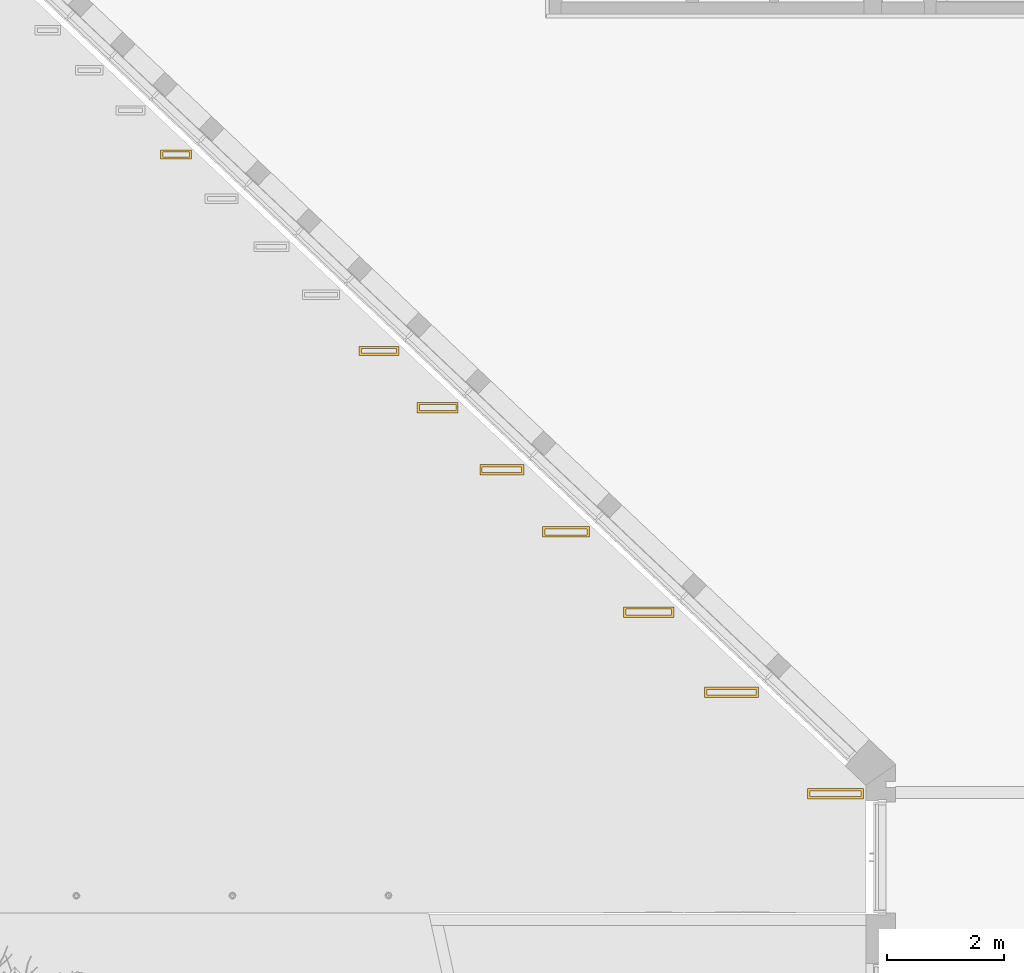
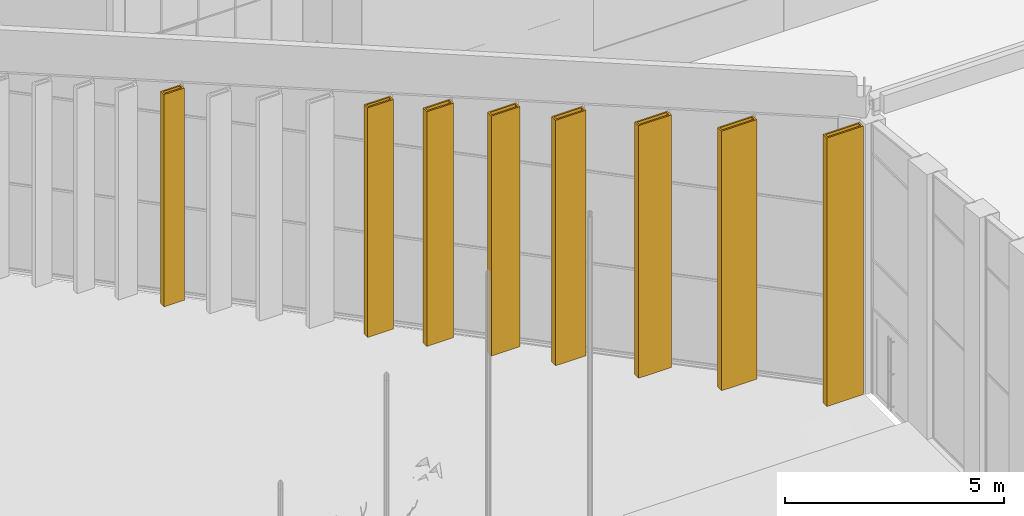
# One storey, part 175 of 246: 8 coverings.
"""IFC2X3 building model written with IfcOpenShell, lengths in millimetres."""

from ifc_helpers import new_model, entity, si_unit, converted_unit, derived_unit, money_unit, direction, frame, origin_with_axes, place, context, subcontext, project, spatial, faceted_brep, material, material_list, type_object, element, save


model = new_model("IFC2X3")

# Units and contexts
model_context = context("Model", 3, precision=0.01, world=origin_with_axes(), true_north=direction((0.0, 1.0)))
body_context = subcontext(model_context, "Body", "Model", "MODEL_VIEW")
ifc_project = project(units=[si_unit("LENGTHUNIT", "METRE", prefix="MILLI"), si_unit("AREAUNIT", "SQUARE_METRE"), si_unit("VOLUMEUNIT", "CUBIC_METRE"), converted_unit("PLANEANGLEUNIT", "DEGREE", entity("IfcPlaneAngleMeasure", 0.0174532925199), si_unit("PLANEANGLEUNIT", "RADIAN"), dimensions=[0, 0, 0, 0, 0, 0, 0]), si_unit("SOLIDANGLEUNIT", "STERADIAN"), money_unit("EUR"), converted_unit("TIMEUNIT", "Year", entity("IfcTimeMeasure", 31556926.0), si_unit("TIMEUNIT", "SECOND"), dimensions=[0, 0, 1, 0, 0, 0, 0]), si_unit("MASSUNIT", "GRAM", prefix="KILO"), si_unit("THERMODYNAMICTEMPERATUREUNIT", "DEGREE_CELSIUS"), si_unit("LUMINOUSINTENSITYUNIT", "LUMEN"), si_unit("ENERGYUNIT", "JOULE", prefix="MEGA"), derived_unit("THERMALCONDUCTANCEUNIT", [(si_unit("POWERUNIT", "WATT"), 1), (si_unit("LENGTHUNIT", "METRE"), -1), (si_unit("THERMODYNAMICTEMPERATUREUNIT", "KELVIN"), -1)]), derived_unit("SPECIFICHEATCAPACITYUNIT", [(si_unit("ENERGYUNIT", "JOULE"), 1), (si_unit("MASSUNIT", "GRAM", prefix="KILO"), -1), (si_unit("THERMODYNAMICTEMPERATUREUNIT", "KELVIN"), -1)]), derived_unit("MASSDENSITYUNIT", [(si_unit("MASSUNIT", "GRAM", prefix="KILO"), 1), (si_unit("VOLUMEUNIT", "CUBIC_METRE"), -1)])], contexts=[model_context])

# Site, building, storey
site_placement = place(None, origin_with_axes())
site = spatial("IfcSite", under=ifc_project, at=site_placement, Name="L.Koidula tn 11b", CompositionType="ELEMENT")
building_placement = place(site_placement, origin_with_axes())
building = spatial("IfcBuilding", under=site, at=building_placement, Name="Rakvere Riigigümnaasium", CompositionType="ELEMENT")
storey_placement = place(building_placement, origin_with_axes())
storey = spatial("IfcBuildingStorey", under=building, at=storey_placement, Name="1.korrus 0,00", CompositionType="ELEMENT", Elevation=0.0)

# Coverings
ifc_material_1 = material(Name="Puit-fassaad")
ifc_material_2 = material(Name="Teras - Konstruktsioon")
ifc_material_list = material_list([ifc_material_1, ifc_material_1, ifc_material_1, ifc_material_1, ifc_material_2])
covering_type_1 = type_object("IfcCoveringType", Name="AR-Lamell-laudisega 924 x 180", PredefinedType="NOTDEFINED")
covering_1_placement = place(storey_placement, frame((32685.2282351, 45684.8794872, 0.0), z_axis=(0.0, 0.0, 1.0), x_axis=(1.0, 0.0, 0.0)))
element("IfcCovering", 1, at=covering_1_placement, inside=storey, type_object=covering_type_1, material=ifc_material_list, Name="L-C5", PredefinedType="NOTDEFINED", context=body_context, shape_type="Brep", body=[
    faceted_brep([(-442.000004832, -70.019175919, 0.0), (-442.000004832, -90.0005331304, 0.0), (-442.000004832, -90.0005331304, 7220.0), (-442.000004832, -70.019175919, 7220.0), (412.000013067, -70.0191624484, 0.0), (442.000000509, -70.0005325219, 0.0), (462.000001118, -70.0005325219, 0.0), (462.000001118, -90.0005331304, 0.0), (462.000001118, -90.0005331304, 7220.0), (462.000001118, -70.0005325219, 7220.0), (442.000000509, -70.0005325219, 7220.0), (412.000013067, -70.0191624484, 7220.0)], [[[0, 1, 2, 3]], [[0, 4, 5, 6, 7, 1]], [[1, 7, 8, 2]], [[3, 2, 8, 9, 10, 11]], [[4, 0, 3, 11]], [[5, 4, 11, 10]], [[6, 5, 10, 9]], [[7, 6, 9, 8]]]),
    faceted_brep([(441.99999325, 70.0005351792, 0.0), (442.000007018, -70.0005387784, 0.0), (442.000007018, -70.0005387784, 7220.0), (441.99999325, 70.0005351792, 7220.0), (442.000007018, 90.0005292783, 0.0), (462.000001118, 90.0005292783, 0.0), (462.000001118, -70.0005387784, 0.0), (462.000001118, -70.0005387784, 7220.0), (462.000001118, 90.0005292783, 7220.0), (442.000007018, 90.0005292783, 7220.0)], [[[0, 1, 2, 3]], [[0, 4, 5, 6, 1]], [[1, 6, 7, 2]], [[3, 2, 7, 8, 9]], [[4, 0, 3, 9]], [[5, 4, 9, 8]], [[6, 5, 8, 7]]]),
    faceted_brep([(-461.999998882, 90.0005348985, 0.0), (-461.999998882, 70.0005344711, 0.0), (-461.999998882, 70.0005344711, 7220.0), (-461.999998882, 90.0005348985, 7220.0), (441.999998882, 90.0005348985, 0.0), (441.999998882, 70.0005344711, 0.0), (441.999998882, 70.0005344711, 7220.0), (441.999998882, 90.0005348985, 7220.0)], [[[0, 1, 2, 3]], [[0, 4, 5, 1]], [[1, 5, 6, 2]], [[3, 2, 6, 7]], [[4, 0, 3, 7]], [[5, 4, 7, 6]]]),
    faceted_brep([(-461.999998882, -90.0005331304, 0.0), (-441.999998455, -90.0005331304, 0.0), (-441.999998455, -90.0005331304, 7220.0), (-461.999998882, -90.0005331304, 7220.0), (-461.999998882, 70.0005344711, 0.0), (-442.281252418, 70.0005344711, 0.0), (-442.281252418, -70.0191760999, 0.0), (-441.999998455, -70.0191760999, 0.0), (-441.999998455, -70.0191760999, 7220.0), (-442.281252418, -70.0191760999, 7220.0), (-442.281252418, 70.0005344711, 7220.0), (-461.999998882, 70.0005344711, 7220.0)], [[[0, 1, 2, 3]], [[0, 4, 5, 6, 7, 1]], [[1, 7, 8, 2]], [[3, 2, 8, 9, 10, 11]], [[4, 0, 3, 11]], [[5, 4, 11, 10]], [[6, 5, 10, 9]], [[7, 6, 9, 8]]]),
    faceted_brep([(-442.281249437, -70.0191745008, 0.0), (412.000013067, -70.0191624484, 0.0), (412.000013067, -70.0191624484, 7220.0), (-442.281249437, -70.0191745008, 7220.0), (-442.281249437, 70.0005331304, 0.0), (441.999998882, 70.0005331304, 0.0), (441.999998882, -70.0191745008, 0.0), (-422.326915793, 50.1901014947, 0.0), (-422.326915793, -49.5295108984, 0.0), (421.615300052, -49.5295108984, 0.0), (421.615300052, 50.1901014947, 0.0), (441.999998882, -70.0191745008, 7220.0), (441.999998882, 70.0005331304, 7220.0), (-442.281249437, 70.0005331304, 7220.0), (-422.326915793, 50.1901014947, 7220.0), (421.615300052, 50.1901014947, 7220.0), (421.615300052, -49.5295108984, 7220.0), (-422.326915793, -49.5295108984, 7220.0)], [[[0, 1, 2, 3]], [[0, 4, 5, 6, 1], [7, 8, 9, 10]], [[1, 6, 11, 2]], [[3, 2, 11, 12, 13], [14, 15, 16, 17]], [[4, 0, 3, 13]], [[5, 4, 13, 12]], [[6, 5, 12, 11]], [[8, 7, 14, 17]], [[9, 8, 17, 16]], [[10, 9, 16, 15]], [[7, 10, 15, 14]]]),
])
covering_type_2 = type_object("IfcCoveringType", Name="AR-Lamell-laudisega 863 x 180", PredefinedType="NOTDEFINED")
covering_2_placement = place(storey_placement, frame((31263.8077755, 47060.35338, 0.0), z_axis=(0.0, 0.0, 1.0), x_axis=(1.0, 0.0, 0.0)))
element("IfcCovering", 2, at=covering_2_placement, inside=storey, type_object=covering_type_2, material=ifc_material_list, Name="L-C4", PredefinedType="NOTDEFINED", context=body_context, shape_type="Brep", body=[
    faceted_brep([(-411.500005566, -70.0190051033, 0.0), (-411.500005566, -90.0003593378, 0.0), (-411.500005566, -90.0003593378, 7024.0), (-411.500005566, -70.0190051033, 7024.0), (381.499999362, -70.0190051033, 0.0), (411.499993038, -70.0003635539, 0.0), (431.500001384, -70.0003635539, 0.0), (431.500001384, -90.0003593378, 0.0), (431.500001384, -90.0003593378, 7024.0), (431.500001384, -70.0003635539, 7024.0), (411.499993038, -70.0003635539, 7024.0), (381.499999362, -70.0190051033, 7024.0)], [[[0, 1, 2, 3]], [[0, 4, 5, 6, 7, 1]], [[1, 7, 8, 2]], [[3, 2, 8, 9, 10, 11]], [[4, 0, 3, 11]], [[5, 4, 11, 10]], [[6, 5, 10, 9]], [[7, 6, 9, 8]]]),
    faceted_brep([(411.499994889, -70.0003655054, 0.0), (431.500001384, -70.0003655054, 0.0), (431.500001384, -70.0003655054, 7024.0), (411.499994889, -70.0003655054, 7024.0), (411.499994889, 70.0003615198, 0.0), (411.499994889, 90.0003551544, 0.0), (431.500001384, 90.0003551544, 0.0), (431.500001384, 90.0003551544, 7024.0), (411.499994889, 90.0003551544, 7024.0), (411.499994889, 70.0003615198, 7024.0)], [[[0, 1, 2, 3]], [[0, 4, 5, 6, 1]], [[1, 6, 7, 2]], [[3, 2, 7, 8, 9]], [[4, 0, 3, 9]], [[5, 4, 9, 8]], [[6, 5, 8, 7]]]),
    faceted_brep([(-431.499999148, 90.0003545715, 0.0), (-431.499999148, 70.0003589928, 0.0), (-431.499999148, 70.0003589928, 7024.0), (-431.499999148, 90.0003545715, 7024.0), (411.499999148, 90.0003545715, 0.0), (411.499999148, 70.0003589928, 0.0), (411.499999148, 70.0003589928, 7024.0), (411.499999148, 90.0003545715, 7024.0)], [[[0, 1, 2, 3]], [[0, 4, 5, 1]], [[1, 5, 6, 2]], [[3, 2, 6, 7]], [[4, 0, 3, 7]], [[5, 4, 7, 6]]]),
    faceted_brep([(-431.499999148, -90.0003593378, 0.0), (-411.50000357, -90.0003593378, 0.0), (-411.50000357, -90.0003593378, 7024.0), (-431.499999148, -90.0003593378, 7024.0), (-431.499999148, 70.0003589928, 0.0), (-411.781247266, 70.0003589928, 0.0), (-411.781247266, -70.0190053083, 0.0), (-411.50000357, -70.0190053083, 0.0), (-411.50000357, -70.0190053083, 7024.0), (-411.781247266, -70.0190053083, 7024.0), (-411.781247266, 70.0003589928, 7024.0), (-431.499999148, 70.0003589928, 7024.0)], [[[0, 1, 2, 3]], [[0, 4, 5, 6, 7, 1]], [[1, 7, 8, 2]], [[3, 2, 8, 9, 10, 11]], [[4, 0, 3, 11]], [[5, 4, 11, 10]], [[6, 5, 10, 9]], [[7, 6, 9, 8]]]),
    faceted_brep([(-411.781249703, -70.0190007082, 0.0), (381.499999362, -70.0190051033, 0.0), (381.499999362, -70.0190051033, 7024.0), (-411.781249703, -70.0190007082, 7024.0), (-411.781249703, 70.0003593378, 0.0), (411.499999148, 70.0003593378, 0.0), (411.499999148, -70.0190007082, 0.0), (-391.826916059, 50.1899277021, 0.0), (-391.826916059, -49.5293371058, 0.0), (391.115300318, -49.5293371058, 0.0), (391.115300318, 50.1899277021, 0.0), (411.499999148, -70.0190007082, 7024.0), (411.499999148, 70.0003593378, 7024.0), (-411.781249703, 70.0003593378, 7024.0), (-391.826916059, 50.1899277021, 7024.0), (391.115300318, 50.1899277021, 7024.0), (391.115300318, -49.5293371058, 7024.0), (-391.826916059, -49.5293371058, 7024.0)], [[[0, 1, 2, 3]], [[0, 4, 5, 6, 1], [7, 8, 9, 10]], [[1, 6, 11, 2]], [[3, 2, 11, 12, 13], [14, 15, 16, 17]], [[4, 0, 3, 13]], [[5, 4, 13, 12]], [[6, 5, 12, 11]], [[8, 7, 14, 17]], [[9, 8, 17, 16]], [[10, 9, 16, 15]], [[7, 10, 15, 14]]]),
])
covering_type_3 = type_object("IfcCoveringType", Name="AR-Lamell-laudisega 801 x 180", PredefinedType="NOTDEFINED")
covering_3_placement = place(storey_placement, frame((29842.9187659, 48435.7967765, 0.0), z_axis=(0.0, 0.0, 1.0), x_axis=(1.0, 0.0, 0.0)))
element("IfcCovering", 3, at=covering_3_placement, inside=storey, type_object=covering_type_3, material=ifc_material_list, Name="L-C3", PredefinedType="NOTDEFINED", context=body_context, shape_type="Brep", body=[
    faceted_brep([(-380.500004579, -70.0190072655, 0.0), (-380.500004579, -90.0003611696, 0.0), (-380.500004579, -90.0003611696, 6828.0), (-380.500004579, -70.0190072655, 6828.0), (350.500012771, -70.0189956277, 0.0), (380.499991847, -70.000363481, 0.0), (400.500001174, -70.000363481, 0.0), (400.500001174, -90.0003611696, 0.0), (400.500001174, -90.0003611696, 6828.0), (400.500001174, -70.000363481, 6828.0), (380.499991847, -70.000363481, 6828.0), (350.500012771, -70.0189956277, 6828.0)], [[[0, 1, 2, 3]], [[0, 4, 5, 6, 7, 1]], [[1, 7, 8, 2]], [[3, 2, 8, 9, 10, 11]], [[4, 0, 3, 11]], [[5, 4, 11, 10]], [[6, 5, 10, 9]], [[7, 6, 9, 8]]]),
    faceted_brep([(380.499994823, -70.0003636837, 0.0), (400.500001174, -70.0003636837, 0.0), (400.500001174, -70.0003636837, 6828.0), (380.499994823, -70.0003636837, 6828.0), (380.499994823, 70.0003491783, 0.0), (380.499994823, 90.0003674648, 0.0), (400.500001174, 90.0003674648, 0.0), (400.500001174, 90.0003674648, 6828.0), (380.499994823, 90.0003674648, 6828.0), (380.499994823, 70.0003491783, 6828.0)], [[[0, 1, 2, 3]], [[0, 4, 5, 6, 1]], [[1, 6, 7, 2]], [[3, 2, 7, 8, 9]], [[4, 0, 3, 9]], [[5, 4, 9, 8]], [[6, 5, 8, 7]]]),
    faceted_brep([(-400.499998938, 90.0003493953, 0.0), (-400.499998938, 70.0003635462, 0.0), (-400.499998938, 70.0003635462, 6828.0), (-400.499998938, 90.0003493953, 6828.0), (380.499998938, 90.0003493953, 0.0), (380.499998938, 70.0003519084, 0.0), (380.499998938, 70.0003519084, 6828.0), (380.499998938, 90.0003493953, 6828.0)], [[[0, 1, 2, 3]], [[0, 4, 5, 1]], [[1, 5, 6, 2]], [[3, 2, 6, 7]], [[4, 0, 3, 7]], [[5, 4, 7, 6]]]),
    faceted_brep([(-400.499998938, -90.0003611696, 0.0), (-380.500001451, -90.0003611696, 0.0), (-380.500001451, -90.0003611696, 6828.0), (-400.499998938, -90.0003611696, 6828.0), (-400.499998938, 70.0003635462, 0.0), (-380.781252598, 70.0003635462, 0.0), (-380.781252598, -70.019007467, 0.0), (-380.500001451, -70.019007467, 0.0), (-380.500001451, -70.019007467, 6828.0), (-380.781252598, -70.019007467, 6828.0), (-380.781252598, 70.0003635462, 6828.0), (-400.499998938, 70.0003635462, 6828.0)], [[[0, 1, 2, 3]], [[0, 4, 5, 6, 7, 1]], [[1, 7, 8, 2]], [[3, 2, 8, 9, 10, 11]], [[4, 0, 3, 11]], [[5, 4, 11, 10]], [[6, 5, 10, 9]], [[7, 6, 9, 8]]]),
    faceted_brep([(-380.781249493, -70.01900254, 0.0), (350.500012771, -70.0189956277, 0.0), (350.500012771, -70.0189956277, 6828.0), (-380.781249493, -70.01900254, 6828.0), (-380.781249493, 70.0003611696, 0.0), (380.499998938, 70.0003611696, 0.0), (380.499998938, -70.01900254, 0.0), (-360.826915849, 50.1899295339, 0.0), (-360.826915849, -49.5293389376, 0.0), (360.115300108, -49.5293389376, 0.0), (360.115300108, 50.1899295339, 0.0), (380.499998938, -70.01900254, 6828.0), (380.499998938, 70.0003611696, 6828.0), (-380.781249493, 70.0003611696, 6828.0), (-360.826915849, 50.1899295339, 6828.0), (360.115300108, 50.1899295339, 6828.0), (360.115300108, -49.5293389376, 6828.0), (-360.826915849, -49.5293389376, 6828.0)], [[[0, 1, 2, 3]], [[0, 4, 5, 6, 1], [7, 8, 9, 10]], [[1, 6, 11, 2]], [[3, 2, 11, 12, 13], [14, 15, 16, 17]], [[4, 0, 3, 13]], [[5, 4, 13, 12]], [[6, 5, 12, 11]], [[8, 7, 14, 17]], [[9, 8, 17, 16]], [[10, 9, 16, 15]], [[7, 10, 15, 14]]]),
])
covering_type_4 = type_object("IfcCoveringType", Name="AR-Lamell-laudisega 753 x 180", PredefinedType="NOTDEFINED")
covering_4_placement = place(storey_placement, frame((28741.6804099, 49501.7886347, 0.0), z_axis=(0.0, 0.0, 1.0), x_axis=(1.0, 0.0, 0.0)))
element("IfcCovering", 4, at=covering_4_placement, inside=storey, type_object=covering_type_4, material=ifc_material_list, Name="L-C2", PredefinedType="NOTDEFINED", context=body_context, shape_type="Brep", body=[
    faceted_brep([(-356.500001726, -70.0190001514, 0.0), (-356.500001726, -90.0003630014, 0.0), (-356.500001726, -90.0003630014, 6676.0), (-356.500001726, -70.0190001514, 6676.0), (326.499998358, -70.0190001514, 0.0), (356.500004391, -70.0003662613, 0.0), (376.500001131, -70.0003662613, 0.0), (376.500001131, -90.0003630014, 0.0), (376.500001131, -90.0003630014, 6676.0), (376.500001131, -70.0003662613, 6676.0), (356.500004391, -70.0003662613, 6676.0), (326.499998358, -70.0190001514, 6676.0)], [[[0, 1, 2, 3]], [[0, 4, 5, 6, 7, 1]], [[1, 7, 8, 2]], [[3, 2, 8, 9, 10, 11]], [[4, 0, 3, 11]], [[5, 4, 11, 10]], [[6, 5, 10, 9]], [[7, 6, 9, 8]]]),
    faceted_brep([(356.500003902, -70.000363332, 0.0), (376.500001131, -70.000363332, 0.0), (376.500001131, -70.000363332, 6676.0), (356.500003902, -70.000363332, 6676.0), (356.500003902, 70.0003690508, 0.0), (356.500003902, 90.0003550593, 0.0), (376.500001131, 90.0003550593, 0.0), (376.500001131, 90.0003550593, 6676.0), (356.500003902, 90.0003550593, 6676.0), (356.500003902, 70.0003690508, 6676.0)], [[[0, 1, 2, 3]], [[0, 4, 5, 6, 1]], [[1, 6, 7, 2]], [[3, 2, 7, 8, 9]], [[4, 0, 3, 9]], [[5, 4, 9, 8]], [[6, 5, 8, 7]]]),
    faceted_brep([(-376.499998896, 90.0003709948, 0.0), (-376.499998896, 70.0003634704, 0.0), (-376.499998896, 70.0003634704, 6676.0), (-376.499998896, 90.0003709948, 6676.0), (356.499998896, 90.0003709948, 0.0), (356.499998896, 70.0003634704, 0.0), (356.499998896, 70.0003634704, 6676.0), (356.499998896, 90.0003709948, 6676.0)], [[[0, 1, 2, 3]], [[0, 4, 5, 1]], [[1, 5, 6, 2]], [[3, 2, 6, 7]], [[4, 0, 3, 7]], [[5, 4, 7, 6]]]),
    faceted_brep([(-376.499998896, -90.0003630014, 0.0), (-356.500002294, -90.0003630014, 0.0), (-356.500002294, -90.0003630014, 6676.0), (-376.499998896, -90.0003630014, 6676.0), (-376.499998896, 70.0003634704, 0.0), (-356.781247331, 70.0003634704, 0.0), (-356.781247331, -70.0190002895, 0.0), (-356.500002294, -70.0190002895, 0.0), (-356.500002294, -70.0190002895, 6676.0), (-356.781247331, -70.0190002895, 6676.0), (-356.781247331, 70.0003634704, 6676.0), (-376.499998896, 70.0003634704, 6676.0)], [[[0, 1, 2, 3]], [[0, 4, 5, 6, 7, 1]], [[1, 7, 8, 2]], [[3, 2, 8, 9, 10, 11]], [[4, 0, 3, 11]], [[5, 4, 11, 10]], [[6, 5, 10, 9]], [[7, 6, 9, 8]]]),
    faceted_brep([(-356.781249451, -70.0190043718, 0.0), (326.499998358, -70.0190001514, 0.0), (326.499998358, -70.0190001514, 6676.0), (-356.781249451, -70.0190043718, 6676.0), (-356.781249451, 70.0003630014, 0.0), (356.499998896, 70.0003630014, 0.0), (356.499998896, -70.0190043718, 0.0), (-336.826915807, 50.1899313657, 0.0), (-336.826915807, -49.5293407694, 0.0), (336.115300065, -49.5293407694, 0.0), (336.115300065, 50.1899313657, 0.0), (356.499998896, -70.0190043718, 6676.0), (356.499998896, 70.0003630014, 6676.0), (-356.781249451, 70.0003630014, 6676.0), (-336.826915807, 50.1899313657, 6676.0), (336.115300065, 50.1899313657, 6676.0), (336.115300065, -49.5293407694, 6676.0), (-336.826915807, -49.5293407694, 6676.0)], [[[0, 1, 2, 3]], [[0, 4, 5, 6, 1], [7, 8, 9, 10]], [[1, 6, 11, 2]], [[3, 2, 11, 12, 13], [14, 15, 16, 17]], [[4, 0, 3, 13]], [[5, 4, 13, 12]], [[6, 5, 12, 11]], [[8, 7, 14, 17]], [[9, 8, 17, 16]], [[10, 9, 16, 15]], [[7, 10, 15, 14]]]),
])
covering_type_5 = type_object("IfcCoveringType", Name="AR-Lamell-laudisega 706 x 180", PredefinedType="NOTDEFINED")
covering_5_placement = place(storey_placement, frame((27639.9485177, 50567.7743693, 0.0), z_axis=(0.0, 0.0, 1.0), x_axis=(1.0, 0.0, 0.0)))
element("IfcCovering", 5, at=covering_5_placement, inside=storey, type_object=covering_type_5, material=ifc_material_list, Name="L-C1", PredefinedType="NOTDEFINED", context=body_context, shape_type="Brep", body=[
    faceted_brep([(-333.000000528, -70.0190078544, 0.0), (-333.000000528, -90.0003648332, 0.0), (-333.000000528, -90.0003648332, 6525.0), (-333.000000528, -70.0190078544, 6525.0), (303.000010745, -70.0190078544, 0.0), (332.999998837, -70.00036255, 0.0), (353.00000112, -70.00036255, 0.0), (353.00000112, -90.0003648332, 0.0), (353.00000112, -90.0003648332, 6525.0), (353.00000112, -70.00036255, 6525.0), (332.999998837, -70.00036255, 6525.0), (303.000010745, -70.0190078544, 6525.0)], [[[0, 1, 2, 3]], [[0, 4, 5, 6, 7, 1]], [[1, 7, 8, 2]], [[3, 2, 8, 9, 10, 11]], [[4, 0, 3, 11]], [[5, 4, 11, 10]], [[6, 5, 10, 9]], [[7, 6, 9, 8]]]),
    faceted_brep([(333.0000027, -70.0003634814, 0.0), (353.00000112, -70.0003634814, 0.0), (353.00000112, -70.0003634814, 6525.0), (333.0000027, -70.0003634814, 6525.0), (333.0000027, 70.0003723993, 0.0), (333.0000027, 90.0003708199, 0.0), (353.00000112, 90.0003708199, 0.0), (353.00000112, 90.0003708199, 6525.0), (333.0000027, 90.0003708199, 6525.0), (333.0000027, 70.0003723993, 6525.0)], [[[0, 1, 2, 3]], [[0, 4, 5, 6, 1]], [[1, 6, 7, 2]], [[3, 2, 7, 8, 9]], [[4, 0, 3, 9]], [[5, 4, 9, 8]], [[6, 5, 8, 7]]]),
    faceted_brep([(-352.999998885, 90.0003600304, 0.0), (-352.999998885, 70.0003680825, 0.0), (-352.999998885, 70.0003680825, 6525.0), (-352.999998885, 90.0003600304, 6525.0), (332.999998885, 90.0003600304, 0.0), (332.999998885, 70.0003680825, 0.0), (332.999998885, 70.0003680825, 6525.0), (332.999998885, 90.0003600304, 6525.0)], [[[0, 1, 2, 3]], [[0, 4, 5, 1]], [[1, 5, 6, 2]], [[3, 2, 6, 7]], [[4, 0, 3, 7]], [[5, 4, 7, 6]]]),
    faceted_brep([(-352.999998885, -90.0003648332, 0.0), (-332.999996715, -90.0003648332, 0.0), (-332.999996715, -90.0003648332, 6525.0), (-352.999998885, -90.0003648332, 6525.0), (-352.999998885, 70.0003680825, 0.0), (-333.281250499, 70.0003680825, 0.0), (-333.281250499, -70.0190079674, 0.0), (-332.999996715, -70.0190079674, 0.0), (-332.999996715, -70.0190079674, 6525.0), (-333.281250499, -70.0190079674, 6525.0), (-333.281250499, 70.0003680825, 6525.0), (-352.999998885, 70.0003680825, 6525.0)], [[[0, 1, 2, 3]], [[0, 4, 5, 6, 7, 1]], [[1, 7, 8, 2]], [[3, 2, 8, 9, 10, 11]], [[4, 0, 3, 11]], [[5, 4, 11, 10]], [[6, 5, 10, 9]], [[7, 6, 9, 8]]]),
    faceted_brep([(-333.28124944, -70.0190062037, 0.0), (303.000010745, -70.0190078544, 0.0), (303.000010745, -70.0190078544, 6525.0), (-333.28124944, -70.0190062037, 6525.0), (-333.28124944, 70.0003648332, 0.0), (332.999998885, 70.0003648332, 0.0), (332.999998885, -70.0190062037, 0.0), (-313.326915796, 50.1899331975, 0.0), (-313.326915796, -49.5293426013, 0.0), (312.615300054, -49.5293426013, 0.0), (312.615300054, 50.1899331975, 0.0), (332.999998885, -70.0190062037, 6525.0), (332.999998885, 70.0003648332, 6525.0), (-333.28124944, 70.0003648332, 6525.0), (-313.326915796, 50.1899331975, 6525.0), (312.615300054, 50.1899331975, 6525.0), (312.615300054, -49.5293426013, 6525.0), (-313.326915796, -49.5293426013, 6525.0)], [[[0, 1, 2, 3]], [[0, 4, 5, 6, 1], [7, 8, 9, 10]], [[1, 6, 11, 2]], [[3, 2, 11, 12, 13], [14, 15, 16, 17]], [[4, 0, 3, 13]], [[5, 4, 13, 12]], [[6, 5, 12, 11]], [[8, 7, 14, 17]], [[9, 8, 17, 16]], [[10, 9, 16, 15]], [[7, 10, 15, 14]]]),
])
covering_type_6 = type_object("IfcCoveringType", Name="AR-Lamell-laudisega 683 x 160", PredefinedType="NOTDEFINED")
covering_6_placement = place(storey_placement, frame((26635.1041961, 51540.6059695, 0.0), z_axis=(0.0, 0.0, 1.0), x_axis=(1.0, 0.0, 0.0)))
element("IfcCovering", 6, at=covering_6_placement, inside=storey, type_object=covering_type_6, material=ifc_material_list, Name="L-B8", PredefinedType="NOTDEFINED", context=body_context, shape_type="Brep", body=[
    faceted_brep([(-321.500004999, -60.0187435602, 0.0), (-321.500004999, -80.0000992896, 0.0), (-321.500004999, -80.0000992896, 6385.0), (-321.500004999, -60.0187435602, 6385.0), (291.500005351, -60.0187435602, 0.0), (321.499992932, -60.0001009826, 0.0), (341.500001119, -60.0001009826, 0.0), (341.500001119, -80.0000992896, 0.0), (341.500001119, -80.0000992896, 6385.0), (341.500001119, -60.0001009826, 6385.0), (321.499992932, -60.0001009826, 6385.0), (291.500005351, -60.0187435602, 6385.0)], [[[0, 1, 2, 3]], [[0, 4, 5, 6, 7, 1]], [[1, 7, 8, 2]], [[3, 2, 8, 9, 10, 11]], [[4, 0, 3, 11]], [[5, 4, 11, 10]], [[6, 5, 10, 9]], [[7, 6, 9, 8]]]),
    faceted_brep([(321.499996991, -60.0001000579, 0.0), (341.500001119, -60.0001000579, 0.0), (341.500001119, -60.0001000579, 6385.0), (321.499996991, -60.0001000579, 6385.0), (321.499996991, 60.0000977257, 0.0), (321.499996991, 80.0001018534, 0.0), (341.500001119, 80.0001018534, 0.0), (341.500001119, 80.0001018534, 6385.0), (321.499996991, 80.0001018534, 6385.0), (321.499996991, 60.0000977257, 6385.0)], [[[0, 1, 2, 3]], [[0, 4, 5, 6, 1]], [[1, 6, 7, 2]], [[3, 2, 7, 8, 9]], [[4, 0, 3, 9]], [[5, 4, 9, 8]], [[6, 5, 8, 7]]]),
    faceted_brep([(-341.499998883, 80.0000926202, 0.0), (-341.499998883, 60.0000945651, 0.0), (-341.499998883, 60.0000945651, 6385.0), (-341.499998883, 80.0000926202, 6385.0), (321.499998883, 80.0000926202, 0.0), (321.499998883, 60.0000945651, 0.0), (321.499998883, 60.0000945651, 6385.0), (321.499998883, 80.0000926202, 6385.0)], [[[0, 1, 2, 3]], [[0, 4, 5, 1]], [[1, 5, 6, 2]], [[3, 2, 6, 7]], [[4, 0, 3, 7]], [[5, 4, 7, 6]]]),
    faceted_brep([(-341.499998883, -80.0000992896, 0.0), (-321.500000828, -80.0000992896, 0.0), (-321.500000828, -80.0000992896, 6385.0), (-341.499998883, -80.0000992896, 6385.0), (-341.499998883, 60.0000945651, 0.0), (-321.781249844, 60.0000945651, 0.0), (-321.781249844, -60.0187438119, 0.0), (-321.500000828, -60.0187438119, 0.0), (-321.500000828, -60.0187438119, 6385.0), (-321.781249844, -60.0187438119, 6385.0), (-321.781249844, 60.0000945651, 6385.0), (-341.499998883, 60.0000945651, 6385.0)], [[[0, 1, 2, 3]], [[0, 4, 5, 6, 7, 1]], [[1, 7, 8, 2]], [[3, 2, 8, 9, 10, 11]], [[4, 0, 3, 11]], [[5, 4, 11, 10]], [[6, 5, 10, 9]], [[7, 6, 9, 8]]]),
    faceted_brep([(-321.781249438, -60.01874066, 0.0), (291.500005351, -60.0187435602, 0.0), (291.500005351, -60.0187435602, 6385.0), (-321.781249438, -60.01874066, 6385.0), (-321.781249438, 60.0000992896, 0.0), (321.499998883, 60.0000992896, 0.0), (321.499998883, -60.01874066, 0.0), (-301.826915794, 40.1896676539, 0.0), (-301.826915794, -39.5290770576, 0.0), (301.115300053, -39.5290770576, 0.0), (301.115300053, 40.1896676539, 0.0), (321.499998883, -60.01874066, 6385.0), (321.499998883, 60.0000992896, 6385.0), (-321.781249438, 60.0000992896, 6385.0), (-301.826915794, 40.1896676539, 6385.0), (301.115300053, 40.1896676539, 6385.0), (301.115300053, -39.5290770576, 6385.0), (-301.826915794, -39.5290770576, 6385.0)], [[[0, 1, 2, 3]], [[0, 4, 5, 6, 1], [7, 8, 9, 10]], [[1, 6, 11, 2]], [[3, 2, 11, 12, 13], [14, 15, 16, 17]], [[4, 0, 3, 13]], [[5, 4, 13, 12]], [[6, 5, 12, 11]], [[8, 7, 14, 17]], [[9, 8, 17, 16]], [[10, 9, 16, 15]], [[7, 10, 15, 14]]]),
])
covering_type_7 = type_object("IfcCoveringType", Name="AR-Lamell-laudisega 533 x 160", PredefinedType="NOTDEFINED")
covering_7_placement = place(storey_placement, frame((23152.8990711, 54910.8619196, 0.0), z_axis=(0.0, 0.0, 1.0), x_axis=(1.0, 0.0, 0.0)))
element("IfcCovering", 7, at=covering_7_placement, inside=storey, type_object=covering_type_7, material=ifc_material_list, Name="L-B4", PredefinedType="NOTDEFINED", context=body_context, shape_type="Brep", body=[
    faceted_brep([(-246.500005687, -60.0188380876, 0.0), (-246.500005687, -80.0001978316, 0.0), (-246.500005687, -80.0001978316, 5905.0), (-246.500005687, -60.0188380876, 5905.0), (216.499998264, -60.0188380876, 0.0), (246.499996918, -60.0002012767, 0.0), (266.500001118, -60.0002012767, 0.0), (266.500001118, -80.0001978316, 0.0), (266.500001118, -80.0001978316, 5905.0), (266.500001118, -60.0002012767, 5905.0), (246.499996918, -60.0002012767, 5905.0), (216.499998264, -60.0188380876, 5905.0)], [[[0, 1, 2, 3]], [[0, 4, 5, 6, 7, 1]], [[1, 7, 8, 2]], [[3, 2, 8, 9, 10, 11]], [[4, 0, 3, 11]], [[5, 4, 11, 10]], [[6, 5, 10, 9]], [[7, 6, 9, 8]]]),
    faceted_brep([(246.499999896, -60.0001998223, 0.0), (266.500001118, -60.0001998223, 0.0), (266.500001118, -60.0001998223, 5905.0), (246.499999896, -60.0001998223, 5905.0), (246.499999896, 60.0001966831, 0.0), (246.499999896, 80.000197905, 0.0), (266.500001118, 80.000197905, 0.0), (266.500001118, 80.000197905, 5905.0), (246.499999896, 80.000197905, 5905.0), (246.499999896, 60.0001966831, 5905.0)], [[[0, 1, 2, 3]], [[0, 4, 5, 6, 1]], [[1, 6, 7, 2]], [[3, 2, 7, 8, 9]], [[4, 0, 3, 9]], [[5, 4, 9, 8]], [[6, 5, 8, 7]]]),
    faceted_brep([(-266.499998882, 80.0001998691, 0.0), (-266.499998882, 60.0001960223, 0.0), (-266.499998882, 60.0001960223, 5905.0), (-266.499998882, 80.0001998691, 5905.0), (246.499998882, 80.0001998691, 0.0), (246.499998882, 60.0001960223, 0.0), (246.499998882, 60.0001960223, 5905.0), (246.499998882, 80.0001998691, 5905.0)], [[[0, 1, 2, 3]], [[0, 4, 5, 1]], [[1, 5, 6, 2]], [[3, 2, 6, 7]], [[4, 0, 3, 7]], [[5, 4, 7, 6]]]),
    faceted_brep([(-266.499998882, -80.0001978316, 0.0), (-246.50000268, -80.0001978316, 0.0), (-246.50000268, -80.0001978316, 5905.0), (-266.499998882, -80.0001978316, 5905.0), (-266.499998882, 60.0001960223, 0.0), (-246.781251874, 60.0001960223, 0.0), (-246.781251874, -60.0188384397, 0.0), (-246.50000268, -60.0188384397, 0.0), (-246.50000268, -60.0188384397, 5905.0), (-246.781251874, -60.0188384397, 5905.0), (-246.781251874, 60.0001960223, 5905.0), (-266.499998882, 60.0001960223, 5905.0)], [[[0, 1, 2, 3]], [[0, 4, 5, 6, 7, 1]], [[1, 7, 8, 2]], [[3, 2, 8, 9, 10, 11]], [[4, 0, 3, 11]], [[5, 4, 11, 10]], [[6, 5, 10, 9]], [[7, 6, 9, 8]]]),
    faceted_brep([(-246.781249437, -60.018839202, 0.0), (216.499998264, -60.0188380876, 0.0), (216.499998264, -60.0188380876, 5905.0), (-246.781249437, -60.018839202, 5905.0), (-246.781249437, 60.0001978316, 0.0), (246.499998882, 60.0001978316, 0.0), (246.499998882, -60.018839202, 0.0), (-226.826915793, 40.1897661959, 0.0), (-226.826915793, -39.5291755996, 0.0), (226.115300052, -39.5291755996, 0.0), (226.115300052, 40.1897661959, 0.0), (246.499998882, -60.018839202, 5905.0), (246.499998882, 60.0001978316, 5905.0), (-246.781249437, 60.0001978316, 5905.0), (-226.826915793, 40.1897661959, 5905.0), (226.115300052, 40.1897661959, 5905.0), (226.115300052, -39.5291755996, 5905.0), (-226.826915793, -39.5291755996, 5905.0)], [[[0, 1, 2, 3]], [[0, 4, 5, 6, 1], [7, 8, 9, 10]], [[1, 6, 11, 2]], [[3, 2, 11, 12, 13], [14, 15, 16, 17]], [[4, 0, 3, 13]], [[5, 4, 13, 12]], [[6, 5, 12, 11]], [[8, 7, 14, 17]], [[9, 8, 17, 16]], [[10, 9, 16, 15]], [[7, 10, 15, 14]]]),
])
covering_type_8 = type_object("IfcCoveringType", Name="AR-Lamell-laudisega 960 x 180", PredefinedType="NOTDEFINED")
covering_8_placement = place(storey_placement, frame((34466.1120627, 43940.9270397, 0.0), z_axis=(0.0, 0.0, 1.0), x_axis=(1.0, 0.0, 0.0)))
element("IfcCovering", 8, at=covering_8_placement, inside=storey, type_object=covering_type_8, material=ifc_material_list, Name="L-C6", PredefinedType="NOTDEFINED", context=body_context, shape_type="Brep", body=[
    faceted_brep([(-459.999998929, -70.0193513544, 0.0), (-459.999998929, -90.000710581, 0.0), (-459.999998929, -90.000710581, 7468.0), (-459.999998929, -70.0193513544, 7468.0), (430.000001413, -70.0193513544, 0.0), (459.999998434, -70.0007219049, 0.0), (480.000001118, -70.0007219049, 0.0), (480.000001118, -90.000710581, 0.0), (480.000001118, -90.000710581, 7468.0), (480.000001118, -70.0007219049, 7468.0), (459.999998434, -70.0007219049, 7468.0), (430.000001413, -70.0193513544, 7468.0)], [[[0, 1, 2, 3]], [[0, 4, 5, 6, 7, 1]], [[1, 7, 8, 2]], [[3, 2, 8, 9, 10, 11]], [[4, 0, 3, 11]], [[5, 4, 11, 10]], [[6, 5, 10, 9]], [[7, 6, 9, 8]]]),
    faceted_brep([(460.000001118, -70.000716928, 0.0), (480.000001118, -70.000716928, 0.0), (480.000001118, -70.000716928, 7468.0), (460.000001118, -70.000716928, 7468.0), (460.000001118, 70.0007135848, 0.0), (460.000001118, 90.0007135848, 0.0), (480.000001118, 90.0007135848, 0.0), (480.000001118, 90.0007135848, 7468.0), (460.000001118, 90.0007135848, 7468.0), (460.000001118, 70.0007135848, 7468.0)], [[[0, 1, 2, 3]], [[0, 4, 5, 6, 1]], [[1, 6, 7, 2]], [[3, 2, 7, 8, 9]], [[4, 0, 3, 9]], [[5, 4, 9, 8]], [[6, 5, 8, 7]]]),
    faceted_brep([(-479.999998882, 90.0007138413, 0.0), (-479.999998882, 70.0007112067, 0.0), (-479.999998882, 70.0007112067, 7468.0), (-479.999998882, 90.0007138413, 7468.0), (459.999998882, 90.0007138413, 0.0), (459.999998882, 70.0007112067, 0.0), (459.999998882, 70.0007112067, 7468.0), (459.999998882, 90.0007138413, 7468.0)], [[[0, 1, 2, 3]], [[0, 4, 5, 1]], [[1, 5, 6, 2]], [[3, 2, 6, 7]], [[4, 0, 3, 7]], [[5, 4, 7, 6]]]),
    faceted_brep([(-479.999998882, -90.000710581, 0.0), (-459.999996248, -90.000710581, 0.0), (-459.999996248, -90.000710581, 7468.0), (-479.999998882, -90.000710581, 7468.0), (-479.999998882, 70.0007112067, 0.0), (-460.281244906, 70.0007112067, 0.0), (-460.281244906, -70.0193514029, 0.0), (-459.999996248, -70.0193514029, 0.0), (-459.999996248, -70.0193514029, 7468.0), (-460.281244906, -70.0193514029, 7468.0), (-460.281244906, 70.0007112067, 7468.0), (-479.999998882, 70.0007112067, 7468.0)], [[[0, 1, 2, 3]], [[0, 4, 5, 6, 7, 1]], [[1, 7, 8, 2]], [[3, 2, 8, 9, 10, 11]], [[4, 0, 3, 11]], [[5, 4, 11, 10]], [[6, 5, 10, 9]], [[7, 6, 9, 8]]]),
    faceted_brep([(-460.281249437, -70.0193519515, 0.0), (430.000001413, -70.0193513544, 0.0), (430.000001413, -70.0193513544, 7468.0), (-460.281249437, -70.0193519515, 7468.0), (-460.281249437, 70.000710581, 0.0), (459.999998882, 70.000710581, 0.0), (459.999998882, -70.0193519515, 0.0), (-440.326915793, 50.1902789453, 0.0), (-440.326915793, -49.5296883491, 0.0), (439.615300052, -49.5296883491, 0.0), (439.615300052, 50.1902789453, 0.0), (459.999998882, -70.0193519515, 7468.0), (459.999998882, 70.000710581, 7468.0), (-460.281249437, 70.000710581, 7468.0), (-440.326915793, 50.1902789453, 7468.0), (439.615300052, 50.1902789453, 7468.0), (439.615300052, -49.5296883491, 7468.0), (-440.326915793, -49.5296883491, 7468.0)], [[[0, 1, 2, 3]], [[0, 4, 5, 6, 1], [7, 8, 9, 10]], [[1, 6, 11, 2]], [[3, 2, 11, 12, 13], [14, 15, 16, 17]], [[4, 0, 3, 13]], [[5, 4, 13, 12]], [[6, 5, 12, 11]], [[8, 7, 14, 17]], [[9, 8, 17, 16]], [[10, 9, 16, 15]], [[7, 10, 15, 14]]]),
])

save(model, "model.ifc")
